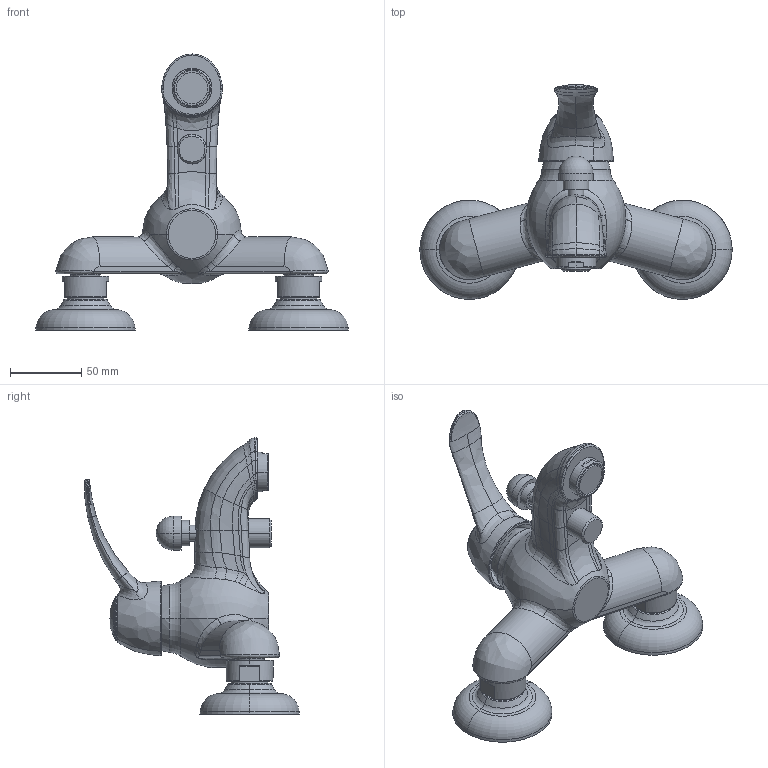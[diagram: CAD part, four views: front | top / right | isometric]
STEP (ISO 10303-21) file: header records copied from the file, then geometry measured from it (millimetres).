
FILE_DESCRIPTION((''),'2;1');
FILE_NAME('F3304_FILE_3D','2013-08-06T',('ivanv'),(''),'PRO/ENGINEER BY PARAMETRIC TECHNOLOGY CORPORATION, 2012130','PRO/ENGINEER BY PARAMETRIC TECHNOLOGY CORPORATION, 2012130','');
FILE_SCHEMA(('CONFIG_CONTROL_DESIGN'));
Length unit declared in the file: millimetre
Products named in the file (1): F3304_FILE_3D
Bounding box: 220 x 151.14 x 194.3 mm (x, y, z)
Volume: 434246.2 mm3; surface area: 115387 mm2
Topology: 2 solids, 2 shells, 610 faces, 1342 edges, 777 vertices
Faces by surface type: bspline 202, cylinder 124, plane 119, cone 94, torus 59, sphere 12
Entity records: 32218 total; most frequent: CARTESIAN_POINT 20057, ORIENTED_EDGE 2676, DIRECTION 2237, EDGE_CURVE 1338, AXIS2_PLACEMENT_3D 947, VERTEX_POINT 777, EDGE_LOOP 655, FACE_OUTER_BOUND 610
